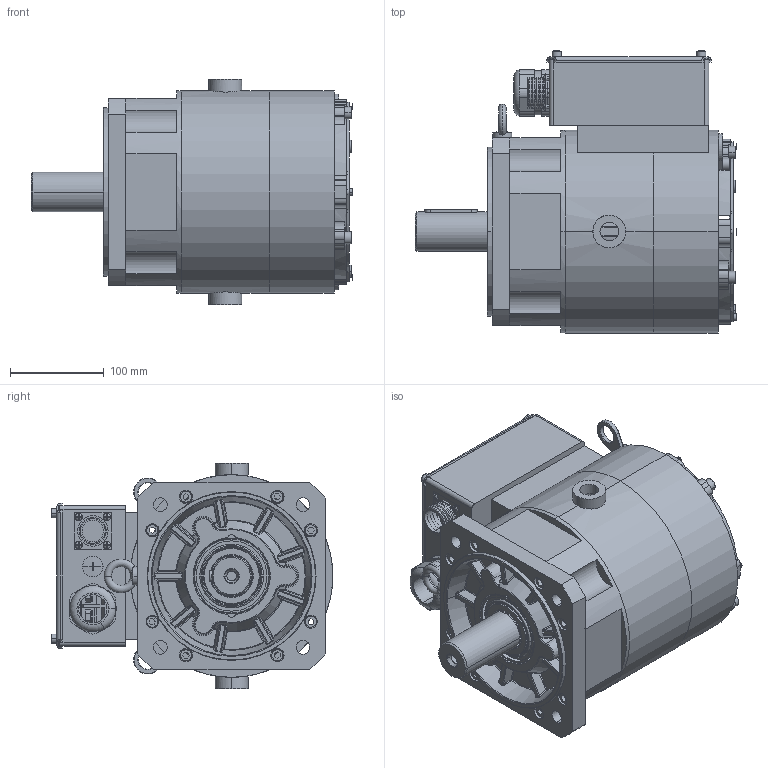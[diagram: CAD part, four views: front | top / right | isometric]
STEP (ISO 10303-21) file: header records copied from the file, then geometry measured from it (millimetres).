
FILE_DESCRIPTION((''),'2;1');
FILE_NAME('11101-01760_SW0003','2026-02-12T16:42:06',('admin'),(''),'CREO PARAMETRIC BY PTC INC, 2019080','CREO PARAMETRIC BY PTC INC, 2019080','');
FILE_SCHEMA(('CONFIG_CONTROL_DESIGN'));
Length unit declared in the file: millimetre
Products named in the file (1): 11101-01760_SW0003
Bounding box: 343 x 300.5 x 240 mm (x, y, z)
Surface area: 714894.9 mm2 (no closed solid volume)
Topology: 0 solids, 120 shells, 870 faces, 3714 edges, 2869 vertices
Faces by surface type: plane 374, cylinder 298, cone 98, torus 62, bspline 28, sphere 10
Entity records: 41128 total; most frequent: CARTESIAN_POINT 10739, DIRECTION 6692, ORIENTED_EDGE 5194, EDGE_CURVE 3714, VERTEX_POINT 2869, AXIS2_PLACEMENT_3D 2431, VECTOR 1830, LINE 1830
